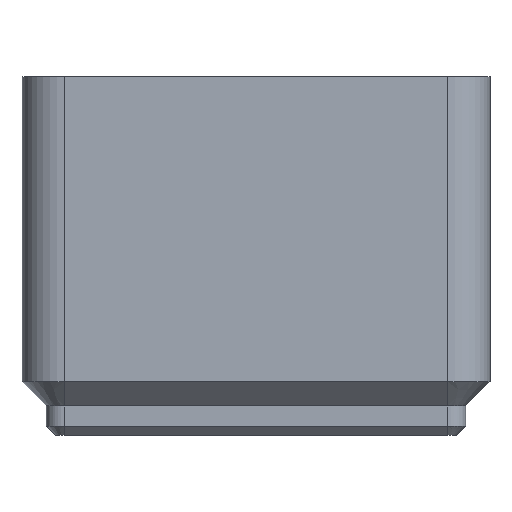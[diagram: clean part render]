
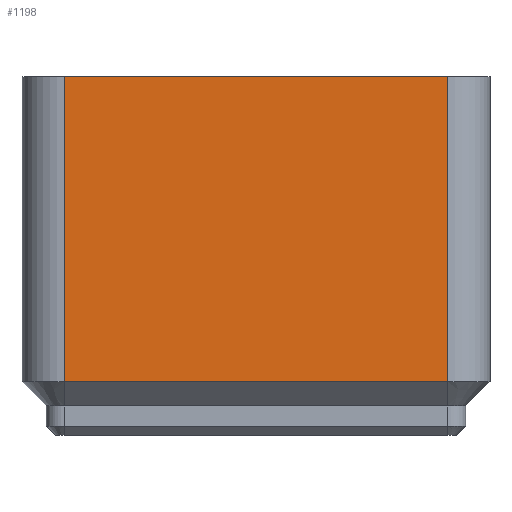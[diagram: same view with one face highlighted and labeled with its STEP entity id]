
A CAD part, left-side view. The second image highlights one B-rep face of the part: STEP entity #1198.
In plain terms, the highlighted planar face has unit normal (-1, 0, 0).
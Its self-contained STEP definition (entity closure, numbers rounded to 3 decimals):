
#416 = PLANE('',#417);
#417 = AXIS2_PLACEMENT_3D('',#418,#419,#420);
#418 = CARTESIAN_POINT('',(-20.75,0.,4.75));
#419 = DIRECTION('',(-0.707,0.,-0.707));
#420 = DIRECTION('',(0.,-1.,-0.));
#793 = VERTEX_POINT('',#794);
#794 = CARTESIAN_POINT('',(-20.75,-17.,4.75));
#812 = EDGE_CURVE('',#793,#813,#815,.T.);
#813 = VERTEX_POINT('',#814);
#814 = CARTESIAN_POINT('',(-20.75,17.,4.75));
#815 = SURFACE_CURVE('',#816,(#820,#827),.PCURVE_S1.);
#816 = LINE('',#817,#818);
#817 = CARTESIAN_POINT('',(-20.75,0.,4.75));
#818 = VECTOR('',#819,1.);
#819 = DIRECTION('',(0.,1.,0.));
#820 = PCURVE('',#416,#821);
#821 = DEFINITIONAL_REPRESENTATION('',(#822),#826);
#822 = LINE('',#823,#824);
#823 = CARTESIAN_POINT('',(0.,0.));
#824 = VECTOR('',#825,1.);
#825 = DIRECTION('',(-1.,0.));
#826 = ( GEOMETRIC_REPRESENTATION_CONTEXT(2) 
PARAMETRIC_REPRESENTATION_CONTEXT() REPRESENTATION_CONTEXT('2D SPACE',''
  ) );
#827 = PCURVE('',#828,#833);
#828 = PLANE('',#829);
#829 = AXIS2_PLACEMENT_3D('',#830,#831,#832);
#830 = CARTESIAN_POINT('',(-20.75,-17.,4.75));
#831 = DIRECTION('',(-1.,0.,0.));
#832 = DIRECTION('',(0.,1.,0.));
#833 = DEFINITIONAL_REPRESENTATION('',(#834),#838);
#834 = LINE('',#835,#836);
#835 = CARTESIAN_POINT('',(17.,0.));
#836 = VECTOR('',#837,1.);
#837 = DIRECTION('',(1.,0.));
#838 = ( GEOMETRIC_REPRESENTATION_CONTEXT(2) 
PARAMETRIC_REPRESENTATION_CONTEXT() REPRESENTATION_CONTEXT('2D SPACE',''
  ) );
#1187 = CYLINDRICAL_SURFACE('',#1188,3.75);
#1188 = AXIS2_PLACEMENT_3D('',#1189,#1190,#1191);
#1189 = CARTESIAN_POINT('',(-17.,-17.,4.75));
#1190 = DIRECTION('',(0.,0.,-1.));
#1191 = DIRECTION('',(-1.,0.,0.));
#1198 = ADVANCED_FACE('',(#1199),#828,.T.);
#1199 = FACE_BOUND('',#1200,.T.);
#1200 = EDGE_LOOP('',(#1201,#1224,#1252,#1278));
#1201 = ORIENTED_EDGE('',*,*,#1202,.T.);
#1202 = EDGE_CURVE('',#793,#1203,#1205,.T.);
#1203 = VERTEX_POINT('',#1204);
#1204 = CARTESIAN_POINT('',(-20.75,-17.,31.8));
#1205 = SURFACE_CURVE('',#1206,(#1210,#1217),.PCURVE_S1.);
#1206 = LINE('',#1207,#1208);
#1207 = CARTESIAN_POINT('',(-20.75,-17.,4.75));
#1208 = VECTOR('',#1209,1.);
#1209 = DIRECTION('',(0.,0.,1.));
#1210 = PCURVE('',#828,#1211);
#1211 = DEFINITIONAL_REPRESENTATION('',(#1212),#1216);
#1212 = LINE('',#1213,#1214);
#1213 = CARTESIAN_POINT('',(0.,0.));
#1214 = VECTOR('',#1215,1.);
#1215 = DIRECTION('',(0.,-1.));
#1216 = ( GEOMETRIC_REPRESENTATION_CONTEXT(2) 
PARAMETRIC_REPRESENTATION_CONTEXT() REPRESENTATION_CONTEXT('2D SPACE',''
  ) );
#1217 = PCURVE('',#1187,#1218);
#1218 = DEFINITIONAL_REPRESENTATION('',(#1219),#1223);
#1219 = LINE('',#1220,#1221);
#1220 = CARTESIAN_POINT('',(6.283,0.));
#1221 = VECTOR('',#1222,1.);
#1222 = DIRECTION('',(0.,-1.));
#1223 = ( GEOMETRIC_REPRESENTATION_CONTEXT(2) 
PARAMETRIC_REPRESENTATION_CONTEXT() REPRESENTATION_CONTEXT('2D SPACE',''
  ) );
#1224 = ORIENTED_EDGE('',*,*,#1225,.T.);
#1225 = EDGE_CURVE('',#1203,#1226,#1228,.T.);
#1226 = VERTEX_POINT('',#1227);
#1227 = CARTESIAN_POINT('',(-20.75,17.,31.8));
#1228 = SURFACE_CURVE('',#1229,(#1233,#1240),.PCURVE_S1.);
#1229 = LINE('',#1230,#1231);
#1230 = CARTESIAN_POINT('',(-20.75,0.,31.8));
#1231 = VECTOR('',#1232,1.);
#1232 = DIRECTION('',(0.,1.,0.));
#1233 = PCURVE('',#828,#1234);
#1234 = DEFINITIONAL_REPRESENTATION('',(#1235),#1239);
#1235 = LINE('',#1236,#1237);
#1236 = CARTESIAN_POINT('',(17.,-27.05));
#1237 = VECTOR('',#1238,1.);
#1238 = DIRECTION('',(1.,0.));
#1239 = ( GEOMETRIC_REPRESENTATION_CONTEXT(2) 
PARAMETRIC_REPRESENTATION_CONTEXT() REPRESENTATION_CONTEXT('2D SPACE',''
  ) );
#1240 = PCURVE('',#1241,#1246);
#1241 = PLANE('',#1242);
#1242 = AXIS2_PLACEMENT_3D('',#1243,#1244,#1245);
#1243 = CARTESIAN_POINT('',(0.,0.,31.8)
  );
#1244 = DIRECTION('',(0.,0.,1.));
#1245 = DIRECTION('',(1.,0.,0.));
#1246 = DEFINITIONAL_REPRESENTATION('',(#1247),#1251);
#1247 = LINE('',#1248,#1249);
#1248 = CARTESIAN_POINT('',(-20.75,0.));
#1249 = VECTOR('',#1250,1.);
#1250 = DIRECTION('',(0.,1.));
#1251 = ( GEOMETRIC_REPRESENTATION_CONTEXT(2) 
PARAMETRIC_REPRESENTATION_CONTEXT() REPRESENTATION_CONTEXT('2D SPACE',''
  ) );
#1252 = ORIENTED_EDGE('',*,*,#1253,.F.);
#1253 = EDGE_CURVE('',#813,#1226,#1254,.T.);
#1254 = SURFACE_CURVE('',#1255,(#1259,#1266),.PCURVE_S1.);
#1255 = LINE('',#1256,#1257);
#1256 = CARTESIAN_POINT('',(-20.75,17.,4.75));
#1257 = VECTOR('',#1258,1.);
#1258 = DIRECTION('',(0.,0.,1.));
#1259 = PCURVE('',#828,#1260);
#1260 = DEFINITIONAL_REPRESENTATION('',(#1261),#1265);
#1261 = LINE('',#1262,#1263);
#1262 = CARTESIAN_POINT('',(34.,0.));
#1263 = VECTOR('',#1264,1.);
#1264 = DIRECTION('',(0.,-1.));
#1265 = ( GEOMETRIC_REPRESENTATION_CONTEXT(2) 
PARAMETRIC_REPRESENTATION_CONTEXT() REPRESENTATION_CONTEXT('2D SPACE',''
  ) );
#1266 = PCURVE('',#1267,#1272);
#1267 = CYLINDRICAL_SURFACE('',#1268,3.75);
#1268 = AXIS2_PLACEMENT_3D('',#1269,#1270,#1271);
#1269 = CARTESIAN_POINT('',(-17.,17.,4.75));
#1270 = DIRECTION('',(0.,0.,-1.));
#1271 = DIRECTION('',(-1.,0.,0.));
#1272 = DEFINITIONAL_REPRESENTATION('',(#1273),#1277);
#1273 = LINE('',#1274,#1275);
#1274 = CARTESIAN_POINT('',(0.,0.));
#1275 = VECTOR('',#1276,1.);
#1276 = DIRECTION('',(0.,-1.));
#1277 = ( GEOMETRIC_REPRESENTATION_CONTEXT(2) 
PARAMETRIC_REPRESENTATION_CONTEXT() REPRESENTATION_CONTEXT('2D SPACE',''
  ) );
#1278 = ORIENTED_EDGE('',*,*,#812,.F.);
